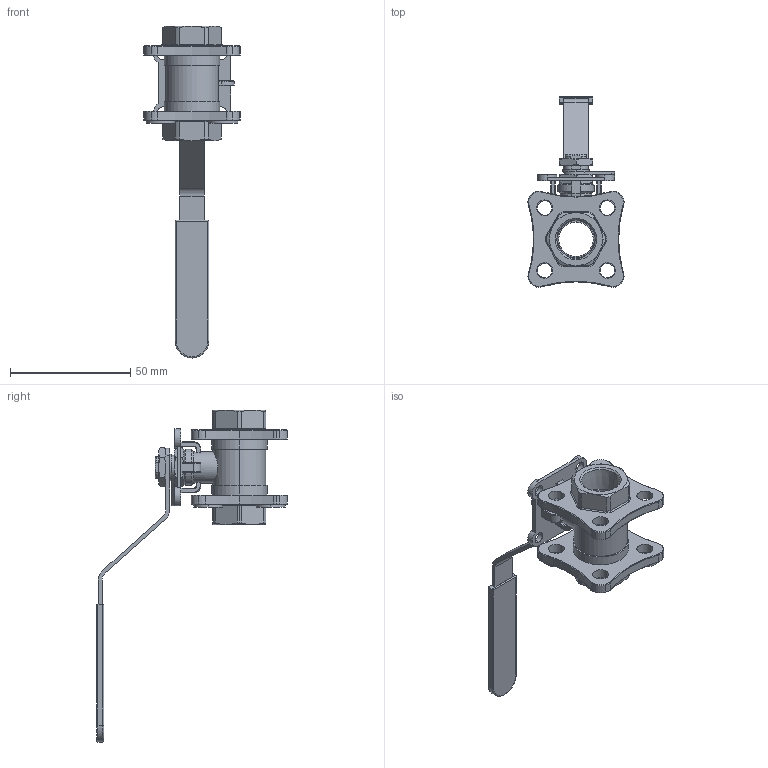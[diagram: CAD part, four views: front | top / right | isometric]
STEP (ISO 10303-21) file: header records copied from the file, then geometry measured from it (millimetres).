
FILE_DESCRIPTION (( 'STEP AP203' ), '1' );
FILE_NAME ('MVX22 0000 N3.STEP', '2019-03-09T14:21:08', ( '' ), ( '' ), 'SwSTEP 2.0', 'SolidWorks 2013', '' );
FILE_SCHEMA (( 'CONFIG_CONTROL_DESIGN' ));
Length unit declared in the file: millimetre
Products named in the file (1): MVX22 0000 N3
Bounding box: 39.86 x 79.18 x 137.8 mm (x, y, z)
Volume: 26750.1 mm3; surface area: 18238.4 mm2
Topology: 1 solids, 1 shells, 499 faces, 1218 edges, 731 vertices
Faces by surface type: cylinder 200, cone 138, plane 123, torus 38
Entity records: 15275 total; most frequent: CARTESIAN_POINT 3245, DIRECTION 2677, ORIENTED_EDGE 2436, EDGE_CURVE 1218, AXIS2_PLACEMENT_3D 1095, VERTEX_POINT 731, CIRCLE 595, EDGE_LOOP 547
